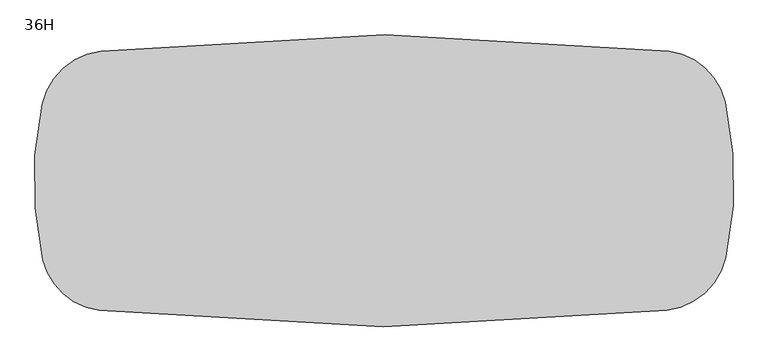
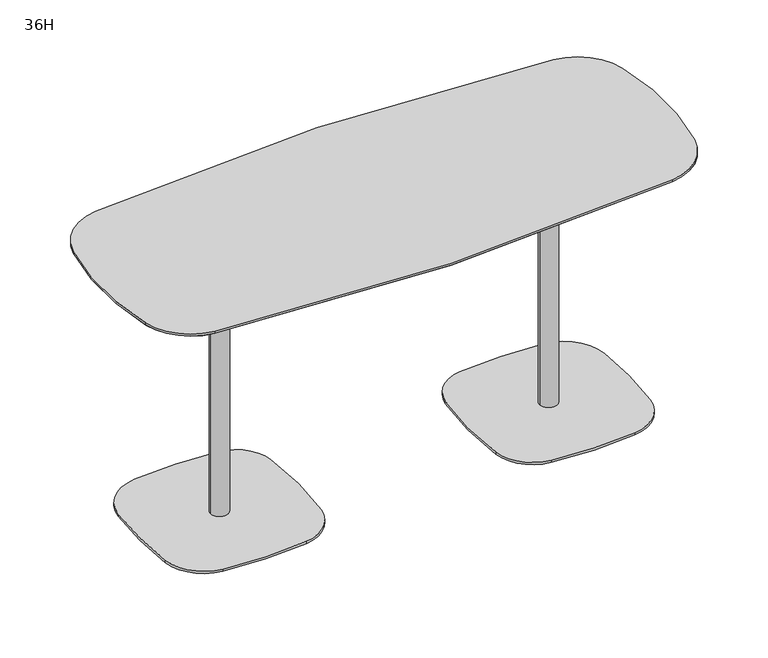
"""IFC4 building model written with IfcOpenShell, lengths in millimetres: furniture geometry, Steelcase Coalesse - Enea Lottus - Table - Rectangular : 36H."""

from ifc_helpers import new_model, si_unit, point, frame, frame_2d, origin, origin_with_axes, place, context, project, spatial, polyline, circle_curve, trimmed, segment, composite_curve, outline, extrude, source, transform, mapped, element, save
from ifc_brep_helpers import plane_surface, cylinder_surface, revolved_surface, advanced_brep


def furniture_36h_5759447a(model_context):
    return source(origin(), model_context, "Body", "SolidModel", [
        advanced_brep(
        [(533.6899315, 0.0079283, 878.1956207), (533.6899315, 29.1924887, 878.1956207), (533.6899315, -29.1766322, 878.1956207), (533.6899315, 176.2649386, 898.2538925), (533.6899315, -176.2490821, 898.2538925), (533.6899315, 176.2649386, 901.6282142), (533.6899315, -176.2490821, 901.6282142), (533.6899315, 0.0079283, 901.6282142)],
        [
            (0, 1),
            (1, 2, circle_curve(frame((533.6899315, 0.0079283, 878.1956207), z_axis=(0.0, 0.0, -1.0), x_axis=(0.0, 1.0, 0.0)), 29.1845605)),
            (2, 0),
            (2, 1, circle_curve(frame((533.6899315, 0.0079283, 878.1956207), z_axis=(0.0, 0.0, -1.0), x_axis=(0.0, 1.0, 0.0)), 29.1845605)),
            (1, 3),
            (3, 4, circle_curve(frame((533.6899315, 0.0079283, 898.2538925), z_axis=(0.0, 0.0, -1.0), x_axis=(0.0, 1.0, 0.0)), 176.2570104)),
            (4, 2),
            (4, 3, circle_curve(frame((533.6899315, 0.0079283, 898.2538925), z_axis=(0.0, 0.0, -1.0), x_axis=(0.0, 1.0, 0.0)), 176.2570104)),
            (3, 5),
            (5, 6, circle_curve(frame((533.6899315, 0.0079283, 901.6282142), z_axis=(0.0, 0.0, -1.0), x_axis=(0.0, 1.0, 0.0)), 176.2570104)),
            (6, 4),
            (6, 5, circle_curve(frame((533.6899315, 0.0079283, 901.6282142), z_axis=(0.0, 0.0, -1.0), x_axis=(0.0, 1.0, 0.0)), 176.2570104)),
            (5, 7),
            (7, 6),
        ],
        [
            plane_surface(frame((533.6899315, 0.0079283, 878.1956207), z_axis=(0.0, 0.0, -1.0), x_axis=(0.0, 1.0, 0.0))),
            revolved_surface(polyline([(533.6899315, 176.2649386, 898.2538925), (533.6899315, 29.1924887, 878.1956207)]), (533.6899315, 0.0079283, 897.6176504), (0.0, 0.0, -1.0)),
            cylinder_surface(frame((533.6899315, 0.0079283, 897.6176504), z_axis=(0.0, 0.0, -1.0), x_axis=(0.0, 1.0, 0.0)), 176.2570104),
            plane_surface(frame((533.6899315, 0.0079283, 901.6282142), z_axis=(0.0, 0.0, 1.0), x_axis=(0.0, 1.0, 0.0))),
        ],
        [
            (0, [[1, 2, 3]]),
            (0, [[-3, 4, -1]]),
            (1, [[-2, 5, 6, 7]]),
            (1, [[-4, -7, 8, -5]]),
            (2, [[-6, 9, 10, 11]]),
            (2, [[-8, -11, 12, -9]]),
            (3, [[-10, 13, 14]]),
            (3, [[-12, -14, -13]]),
        ],
    ),
        advanced_brep(
        [(-533.2930565, -29.5735072, 878.1956207), (-533.2930565, 28.7956137, 878.1956207), (-533.2930565, -0.3889467, 878.1956207), (-533.2930565, -176.6459571, 898.2538925), (-533.2930565, 175.8680636, 898.2538925), (-533.2930565, -176.6459571, 901.6282142), (-533.2930565, 175.8680636, 901.6282142), (-533.2930565, -0.3889467, 901.6282142)],
        [
            (0, 1, circle_curve(frame((-533.2930565, -0.3889467, 878.1956207), z_axis=(0.0, 0.0, -1.0), x_axis=(0.0, 1.0, 0.0)), 29.1845605)),
            (1, 2),
            (2, 0),
            (1, 0, circle_curve(frame((-533.2930565, -0.3889467, 878.1956207), z_axis=(0.0, 0.0, -1.0), x_axis=(0.0, 1.0, 0.0)), 29.1845605)),
            (3, 4, circle_curve(frame((-533.2930565, -0.3889467, 898.2538925), z_axis=(0.0, 0.0, -1.0), x_axis=(0.0, 1.0, 0.0)), 176.2570104)),
            (4, 1),
            (0, 3),
            (4, 3, circle_curve(frame((-533.2930565, -0.3889467, 898.2538925), z_axis=(0.0, 0.0, -1.0), x_axis=(0.0, 1.0, 0.0)), 176.2570104)),
            (5, 6, circle_curve(frame((-533.2930565, -0.3889467, 901.6282142), z_axis=(0.0, 0.0, -1.0), x_axis=(0.0, 1.0, 0.0)), 176.2570104)),
            (6, 4),
            (3, 5),
            (6, 5, circle_curve(frame((-533.2930565, -0.3889467, 901.6282142), z_axis=(0.0, 0.0, -1.0), x_axis=(0.0, 1.0, 0.0)), 176.2570104)),
            (7, 6),
            (5, 7),
        ],
        [
            plane_surface(frame((-533.2930565, -0.3889467, 878.1956207), z_axis=(0.0, 0.0, -1.0), x_axis=(0.0, 1.0, 0.0))),
            revolved_surface(polyline([(-533.2930565, 28.7956137, 878.1956207), (-533.2930565, 175.8680636, 898.2538925)]), (-533.2930565, -0.3889467, 897.6176504), (0.0, 0.0, 1.0)),
            cylinder_surface(frame((-533.2930565, -0.3889467, 897.6176504), z_axis=(0.0, 0.0, 1.0), x_axis=(0.0, 1.0, 0.0)), 176.2570104),
            plane_surface(frame((-533.2930565, -0.3889467, 901.6282142), z_axis=(0.0, 0.0, 1.0), x_axis=(0.0, 1.0, 0.0))),
        ],
        [
            (0, [[1, 2, 3]]),
            (0, [[4, -3, -2]]),
            (1, [[5, 6, -1, 7]]),
            (1, [[8, -7, -4, -6]]),
            (2, [[9, 10, -5, 11]]),
            (2, [[12, -11, -8, -10]]),
            (3, [[13, -9, 14]]),
            (3, [[-14, -12, -13]]),
        ],
    ),
        extrude(outline(composite_curve([segment(trimmed(circle_curve(frame_2d((714.0146629, 180.1091408)), 14.530327), [point((699.4843358, 180.1091408))], [point((728.5449899, 180.1091408))], False, "CARTESIAN"), True, "CONTINUOUS"), segment(trimmed(circle_curve(frame_2d((714.0146629, 180.1091408)), 14.530327), [point((728.5449899, 180.1091408))], [point((699.4843358, 180.1091408))], False, "CARTESIAN"), True, "CONTINUOUS")], self_intersect=False)), origin_with_axes(), (0.0, 0.0, 1.0), 12.0681503),
        extrude(outline(composite_curve([segment(trimmed(circle_curve(frame_2d((353.3678597, 180.1091408)), 14.530327), [point((338.8375326, 180.1091408))], [point((367.8981867, 180.1091408))], False, "CARTESIAN"), True, "CONTINUOUS"), segment(trimmed(circle_curve(frame_2d((353.3678597, 180.1091408)), 14.530327), [point((367.8981867, 180.1091408))], [point((338.8375326, 180.1091408))], False, "CARTESIAN"), True, "CONTINUOUS")], self_intersect=False)), origin_with_axes(), (0.0, 0.0, 1.0), 12.0681503),
        extrude(outline(composite_curve([segment(trimmed(circle_curve(frame_2d((714.0146629, -180.1091408)), 14.530327), [point((699.4843358, -180.1091408))], [point((728.5449899, -180.1091408))], False, "CARTESIAN"), True, "CONTINUOUS"), segment(trimmed(circle_curve(frame_2d((714.0146629, -180.1091408)), 14.530327), [point((728.5449899, -180.1091408))], [point((699.4843358, -180.1091408))], False, "CARTESIAN"), True, "CONTINUOUS")], self_intersect=False)), origin_with_axes(), (0.0, 0.0, 1.0), 12.0681503),
        extrude(outline(composite_curve([segment(trimmed(circle_curve(frame_2d((353.3678597, -180.1091408)), 14.530327), [point((338.8375326, -180.1091408))], [point((367.8981867, -180.1091408))], False, "CARTESIAN"), True, "CONTINUOUS"), segment(trimmed(circle_curve(frame_2d((353.3678597, -180.1091408)), 14.530327), [point((367.8981867, -180.1091408))], [point((338.8375326, -180.1091408))], False, "CARTESIAN"), True, "CONTINUOUS")], self_intersect=False)), origin_with_axes(), (0.0, 0.0, 1.0), 12.0681503),
        extrude(outline(composite_curve([segment(trimmed(circle_curve(frame_2d((653.6418748, -119.1450965)), 133.222342), [point((786.0221834, -134.099905))], [point((668.3067607, -251.5578358))], False, "CARTESIAN"), True, "CONTINUOUS"), segment(trimmed(circle_curve(frame_2d((533.6074129, 964.6745761)), 1223.6687436), [point((668.3067607, -251.5578358))], [point((397.528708, -251.4042783))], False, "CARTESIAN"), True, "CONTINUOUS"), segment(trimmed(circle_curve(frame_2d((411.982862, -122.2335093)), 129.97696), [point((397.528708, -251.4042783))], [point((282.9704132, -138.0385142))], False, "CARTESIAN"), True, "CONTINUOUS"), segment(trimmed(circle_curve(frame_2d((1412.2891802, 0.3116127)), 1137.7616777), [point((282.9704132, -138.0385142))], [point((283.9914799, 146.7559187))], False, "CARTESIAN"), True, "CONTINUOUS"), segment(trimmed(circle_curve(frame_2d((404.4486749, 131.1215074)), 121.4675703), [point((283.9914799, 146.7559187))], [point((391.3529548, 251.8810733))], False, "CARTESIAN"), True, "CONTINUOUS"), segment(trimmed(circle_curve(frame_2d((531.1125259, -1036.8838838)), 1296.3208909), [point((391.3529548, 251.8810733))], [point((663.5285015, 252.6562907))], False, "CARTESIAN"), True, "CONTINUOUS"), segment(trimmed(circle_curve(frame_2d((649.3276784, 114.3608031)), 139.022679), [point((663.5285015, 252.6562907))], [point((787.6552382, 128.2457396))], False, "CARTESIAN"), True, "CONTINUOUS"), segment(trimmed(circle_curve(frame_2d((-442.8831067, 4.7277163)), 1236.7220061), [point((787.6552382, 128.2457396))], [point((786.0221834, -134.099905))], False, "CARTESIAN"), True, "CONTINUOUS")], self_intersect=False)), frame((0.0, 0.0, 12.0681503), z_axis=(0.0, 0.0, 1.0), x_axis=(1.0, 0.0, 0.0)), (0.0, 0.0, 1.0), 7.874),
        extrude(outline(composite_curve([segment(trimmed(circle_curve(frame_2d((533.6909706, 0.2349542)), 29.1845605), [point((504.5064102, 0.2349542))], [point((562.8755311, 0.2349542))], False, "CARTESIAN"), True, "CONTINUOUS"), segment(trimmed(circle_curve(frame_2d((533.6909706, 0.2349542)), 29.1845605), [point((562.8755311, 0.2349542))], [point((504.5064102, 0.2349542))], False, "CARTESIAN"), True, "CONTINUOUS")], self_intersect=False)), frame((0.0, 0.0, 19.9421503), z_axis=(0.0, 0.0, 1.0), x_axis=(1.0, 0.0, 0.0)), (0.0, 0.0, 1.0), 858.2534704),
        advanced_brep(
        [(739.347506, -338.2744697, 906.847009), (892.4732941, -200.1677811, 906.847009), (891.2541739, 205.5853505, 906.847009), (743.9458752, 337.7402913, 906.847009), (-739.2545007, 338.4789717, 906.847009), (-892.4186272, 200.414007, 906.847009), (-891.1980236, -205.8312645, 906.847009), (-743.8530353, -337.9460632, 906.847009), (737.8865789, -325.6587774, 901.6282142), (-742.3865217, -325.3310191, 901.6282142), (-878.8170663, -203.0025018, 901.6282142), (-880.020895, 197.6596943, 901.6282142), (-737.7970634, 325.8628758, 901.6282142), (742.4758721, 325.1256533, 901.6282142), (878.872445, 202.7599674, 901.6282142), (880.0748107, -197.4168523, 901.6282142)],
        [
            (0, 1, circle_curve(frame((718.8945265, -161.6547777, 906.847009), z_axis=(0.0, 0.0, 1.0), x_axis=(0.11503363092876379, -0.9933615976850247, 0.0)), 177.8)),
            (1, 2, circle_curve(frame((-9.6863319, 0.0, 906.847009), z_axis=(0.0, 0.0, 1.0), x_axis=(0.9762585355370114, -0.21660856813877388, 0.0)), 924.0990917)),
            (2, 3, circle_curve(frame((724.1008339, 167.4426787, 906.847009), z_axis=(0.0, 0.0, 1.0), x_axis=(0.9749392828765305, 0.2224711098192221, 0.0)), 171.45)),
            (3, 4, circle_curve(frame((-0.8375458, -6053.5206925, 906.847009), z_axis=(0.0, 0.0, 1.0), x_axis=(0.11574827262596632, 0.9932785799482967, 0.0)), 6434.5100285)),
            (4, 5, circle_curve(frame((-718.8503777, 161.8536288, 906.847009), z_axis=(0.0, 0.0, 1.0), x_axis=(-0.11475884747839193, 0.9933933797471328, 0.0)), 177.8)),
            (5, 6, circle_curve(frame((9.6863319, 0.0, 906.847009), z_axis=(0.0, 0.0, 1.0), x_axis=(-0.9761993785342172, 0.21687501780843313, 0.0)), 924.0990917)),
            (6, 7, circle_curve(frame((-724.0551012, -167.6429678, 906.847009), z_axis=(0.0, 0.0, 1.0), x_axis=(-0.9748785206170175, -0.22273722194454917, 0.0)), 171.45)),
            (7, 0, circle_curve(frame((-0.8375458, 6053.5206925, 906.847009), z_axis=(0.0, 0.0, 1.0), x_axis=(-0.11547351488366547, -0.9933105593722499, 0.0)), 6434.5100285)),
            (8, 9, circle_curve(frame((-0.8375458, 6053.5206925, 901.6282142), z_axis=(0.0, 0.0, -1.0), x_axis=(-0.11547351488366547, -0.9933105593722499, 0.0)), 6421.8100285)),
            (9, 10, circle_curve(frame((-724.0551012, -167.6429678, 901.6282142), z_axis=(0.0, 0.0, -1.0), x_axis=(-0.9748785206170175, -0.22273722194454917, 0.0)), 158.75)),
            (10, 11, circle_curve(frame((9.6863319, 0.0, 901.6282142), z_axis=(0.0, 0.0, -1.0), x_axis=(-0.9761993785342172, 0.21687501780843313, 0.0)), 911.3990917)),
            (11, 12, circle_curve(frame((-718.8503777, 161.8536288, 901.6282142), z_axis=(0.0, 0.0, -1.0), x_axis=(-0.11475884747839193, 0.9933933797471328, 0.0)), 165.1)),
            (12, 13, circle_curve(frame((-0.8375458, -6053.5206925, 901.6282142), z_axis=(0.0, 0.0, -1.0), x_axis=(0.11574827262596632, 0.9932785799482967, 0.0)), 6421.8100285)),
            (13, 14, circle_curve(frame((724.1008339, 167.4426787, 901.6282142), z_axis=(0.0, 0.0, -1.0), x_axis=(0.9749392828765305, 0.2224711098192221, 0.0)), 158.75)),
            (14, 15, circle_curve(frame((-9.6863319, 0.0, 901.6282142), z_axis=(0.0, 0.0, -1.0), x_axis=(0.9762585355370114, -0.21660856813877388, 0.0)), 911.3990917)),
            (15, 8, circle_curve(frame((718.8945265, -161.6547777, 901.6282142), z_axis=(0.0, 0.0, -1.0), x_axis=(0.11503363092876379, -0.9933615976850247, 0.0)), 165.1)),
            (15, 1),
            (0, 8),
            (14, 2),
            (13, 3),
            (12, 4),
            (11, 5),
            (10, 6),
            (9, 7),
        ],
        [
            plane_surface(frame((0.0370828, -0.0001197, 906.847009), z_axis=(0.0, 0.0, 1.0), x_axis=(-0.9932785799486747, 0.11574827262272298, 0.0))),
            plane_surface(frame((0.03602, -0.00012, 901.6282142), z_axis=(0.0, 0.0, -1.0), x_axis=(-0.9932785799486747, 0.11574827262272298, 0.0))),
            revolved_surface(polyline([(880.0748107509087, -197.41685229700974, 901.6282142), (892.4732941, -200.1677811, 906.847009)]), (718.8945265, -161.6547777, 833.7838815), (0.0, 0.0, 1.0)),
            revolved_surface(polyline([(878.8724450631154, 202.75996741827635, 901.6282142), (891.2541739, 205.5853505, 906.847009)]), (-9.6863319, 0.0, 527.1081463), (0.0, 0.0, 1.0)),
            revolved_surface(polyline([(742.4758721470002, 325.12565338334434, 901.6282142), (743.9458752, 337.7402913, 906.847009)]), (724.1008339, 167.4426787, 836.3932789), (0.0, 0.0, 1.0)),
            revolved_surface(polyline([(-737.7970633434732, 325.8628758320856, 901.6282142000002), (-739.2545007, 338.47897170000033, 906.8470089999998)]), (-0.8375458, -6053.5206925, -1737.2780007), (0.0, 0.0, 1.0)),
            revolved_surface(polyline([(-880.0208951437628, 197.65969428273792, 901.6282142), (-892.4186272, 200.414007, 906.847009)]), (-718.8503777, 161.8536288, 833.7838815), (0.0, 0.0, 1.0)),
            revolved_surface(polyline([(-878.8170664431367, -203.00250179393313, 901.6282142), (-891.1980236, -205.8312645, 906.847009)]), (9.6863319, 0.0, 527.1081463), (0.0, 0.0, 1.0)),
            revolved_surface(polyline([(-742.3865216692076, -325.3310191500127, 901.6282142), (-743.8530353, -337.9460632, 906.847009)]), (-724.0551012, -167.6429678, 836.3932789), (0.0, 0.0, 1.0)),
            revolved_surface(polyline([(737.8865788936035, -325.6587774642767, 901.6282142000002), (739.347506, -338.2744696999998, 906.8470089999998)]), (-0.8375458, 6053.5206925, -1737.2780007), (0.0, 0.0, 1.0)),
        ],
        [
            (0, [[1, 2, 3, 4, 5, 6, 7, 8]]),
            (1, [[9, 10, 11, 12, 13, 14, 15, 16]]),
            (2, [[-16, 17, -1, 18]]),
            (3, [[-15, 19, -2, -17]]),
            (4, [[-14, 20, -3, -19]]),
            (5, [[-13, 21, -4, -20]]),
            (6, [[-12, 22, -5, -21]]),
            (7, [[-11, 23, -6, -22]]),
            (8, [[-10, 24, -7, -23]]),
            (9, [[-9, -18, -8, -24]]),
        ],
    ),
        extrude(outline(composite_curve([segment(trimmed(circle_curve(frame_2d((9.6863319, 0.0)), 924.0990917), [point((-891.1980236, -205.8312645))], [point((-892.4186272, 200.414007))], False, "CARTESIAN"), True, "CONTINUOUS"), segment(trimmed(circle_curve(frame_2d((-718.8503777, 161.8536288)), 177.8), [point((-892.4186272, 200.414007))], [point((-739.2545007, 338.4789717))], False, "CARTESIAN"), True, "CONTINUOUS"), segment(trimmed(circle_curve(frame_2d((-0.8375458, -6053.5206925)), 6434.5100285), [point((-739.2545007, 338.4789717))], [point((743.9458752, 337.7402913))], False, "CARTESIAN"), True, "CONTINUOUS"), segment(trimmed(circle_curve(frame_2d((724.1008339, 167.4426787)), 171.45), [point((743.9458752, 337.7402913))], [point((891.2541739, 205.5853505))], False, "CARTESIAN"), True, "CONTINUOUS"), segment(trimmed(circle_curve(frame_2d((-9.6863319, 0.0)), 924.0990917), [point((891.2541739, 205.5853505))], [point((892.4732941, -200.1677811))], False, "CARTESIAN"), True, "CONTINUOUS"), segment(trimmed(circle_curve(frame_2d((718.8945265, -161.6547777)), 177.8), [point((892.4732941, -200.1677811))], [point((739.347506, -338.2744697))], False, "CARTESIAN"), True, "CONTINUOUS"), segment(trimmed(circle_curve(frame_2d((-0.8375458, 6053.5206925)), 6434.5100285), [point((739.347506, -338.2744697))], [point((-743.8530353, -337.9460632))], False, "CARTESIAN"), True, "CONTINUOUS"), segment(trimmed(circle_curve(frame_2d((-724.0551012, -167.6429678)), 171.45), [point((-743.8530353, -337.9460632))], [point((-891.1980236, -205.8312645))], False, "CARTESIAN"), True, "CONTINUOUS")], self_intersect=False)), frame((0.0, 0.0, 906.847009), z_axis=(0.0, 0.0, 1.0), x_axis=(1.0, 0.0, 0.0)), (0.0, 0.0, 1.0), 7.552991),
        extrude(outline(composite_curve([segment(trimmed(circle_curve(frame_2d((-714.0146629, 180.1091408)), 14.530327), [point((-699.4843358, 180.1091408))], [point((-728.5449899, 180.1091408))], False, "CARTESIAN"), True, "CONTINUOUS"), segment(trimmed(circle_curve(frame_2d((-714.0146629, 180.1091408)), 14.530327), [point((-728.5449899, 180.1091408))], [point((-699.4843358, 180.1091408))], False, "CARTESIAN"), True, "CONTINUOUS")], self_intersect=False)), origin_with_axes(), (0.0, 0.0, 1.0), 12.0681503),
        extrude(outline(composite_curve([segment(trimmed(circle_curve(frame_2d((-353.3678597, 180.1091408)), 14.530327), [point((-338.8375326, 180.1091408))], [point((-367.8981867, 180.1091408))], False, "CARTESIAN"), True, "CONTINUOUS"), segment(trimmed(circle_curve(frame_2d((-353.3678597, 180.1091408)), 14.530327), [point((-367.8981867, 180.1091408))], [point((-338.8375326, 180.1091408))], False, "CARTESIAN"), True, "CONTINUOUS")], self_intersect=False)), origin_with_axes(), (0.0, 0.0, 1.0), 12.0681503),
        extrude(outline(composite_curve([segment(trimmed(circle_curve(frame_2d((-714.0146629, -180.1091408)), 14.530327), [point((-699.4843358, -180.1091408))], [point((-728.5449899, -180.1091408))], False, "CARTESIAN"), True, "CONTINUOUS"), segment(trimmed(circle_curve(frame_2d((-714.0146629, -180.1091408)), 14.530327), [point((-728.5449899, -180.1091408))], [point((-699.4843358, -180.1091408))], False, "CARTESIAN"), True, "CONTINUOUS")], self_intersect=False)), origin_with_axes(), (0.0, 0.0, 1.0), 12.0681503),
        extrude(outline(composite_curve([segment(trimmed(circle_curve(frame_2d((-353.3678597, -180.1091408)), 14.530327), [point((-338.8375326, -180.1091408))], [point((-367.8981867, -180.1091408))], False, "CARTESIAN"), True, "CONTINUOUS"), segment(trimmed(circle_curve(frame_2d((-353.3678597, -180.1091408)), 14.530327), [point((-367.8981867, -180.1091408))], [point((-338.8375326, -180.1091408))], False, "CARTESIAN"), True, "CONTINUOUS")], self_intersect=False)), origin_with_axes(), (0.0, 0.0, 1.0), 12.0681503),
        extrude(outline(composite_curve([segment(trimmed(circle_curve(frame_2d((442.8831067, 4.7277163)), 1236.7220061), [point((-786.0221834, -134.099905))], [point((-787.6552382, 128.2457396))], False, "CARTESIAN"), True, "CONTINUOUS"), segment(trimmed(circle_curve(frame_2d((-649.3276784, 114.3608031)), 139.022679), [point((-787.6552382, 128.2457396))], [point((-663.5285015, 252.6562907))], False, "CARTESIAN"), True, "CONTINUOUS"), segment(trimmed(circle_curve(frame_2d((-531.1125259, -1036.8838838)), 1296.3208909), [point((-663.5285015, 252.6562907))], [point((-391.3529548, 251.8810733))], False, "CARTESIAN"), True, "CONTINUOUS"), segment(trimmed(circle_curve(frame_2d((-404.4486749, 131.1215074)), 121.4675703), [point((-391.3529548, 251.8810733))], [point((-283.9914799, 146.7559187))], False, "CARTESIAN"), True, "CONTINUOUS"), segment(trimmed(circle_curve(frame_2d((-1412.2891802, 0.3116127)), 1137.7616777), [point((-283.9914799, 146.7559187))], [point((-282.9704132, -138.0385142))], False, "CARTESIAN"), True, "CONTINUOUS"), segment(trimmed(circle_curve(frame_2d((-411.982862, -122.2335093)), 129.97696), [point((-282.9704132, -138.0385142))], [point((-397.528708, -251.4042783))], False, "CARTESIAN"), True, "CONTINUOUS"), segment(trimmed(circle_curve(frame_2d((-533.6074129, 964.6745761)), 1223.6687436), [point((-397.528708, -251.4042783))], [point((-668.3067607, -251.5578358))], False, "CARTESIAN"), True, "CONTINUOUS"), segment(trimmed(circle_curve(frame_2d((-653.6418748, -119.1450965)), 133.222342), [point((-668.3067607, -251.5578358))], [point((-786.0221834, -134.099905))], False, "CARTESIAN"), True, "CONTINUOUS")], self_intersect=False)), frame((0.0, 0.0, 12.0681503), z_axis=(0.0, 0.0, 1.0), x_axis=(1.0, 0.0, 0.0)), (0.0, 0.0, 1.0), 7.874),
        extrude(outline(composite_curve([segment(trimmed(circle_curve(frame_2d((-533.6909706, 0.2349542)), 29.1845605), [point((-504.5064102, 0.2349542))], [point((-562.8755311, 0.2349542))], False, "CARTESIAN"), True, "CONTINUOUS"), segment(trimmed(circle_curve(frame_2d((-533.6909706, 0.2349542)), 29.1845605), [point((-562.8755311, 0.2349542))], [point((-504.5064102, 0.2349542))], False, "CARTESIAN"), True, "CONTINUOUS")], self_intersect=False)), frame((0.0, 0.0, 19.9421503), z_axis=(0.0, 0.0, 1.0), x_axis=(1.0, 0.0, 0.0)), (0.0, 0.0, 1.0), 858.2534704),
    ])


if __name__ == "__main__":
    model = new_model("IFC4")
    model_context = context("Model", 3, world=origin())
    ifc_project = project(units=[si_unit("LENGTHUNIT", "METRE", prefix="MILLI")], contexts=[model_context])
    site = spatial("IfcSite", under=ifc_project)
    building = spatial("IfcBuilding", under=site)
    placement = place(None, origin())
    furniture_36h_shape = furniture_36h_5759447a(model_context)
    element("IfcFurniture", 1, ObjectType="Steelcase Coalesse - Enea Lottus - Table - Rectangular : 36H", at=placement, inside=building, context=model_context, shape_type="MappedRepresentation", body=[
        mapped(furniture_36h_shape, transform((0.0, 0.0, 0.0), x_axis=(1.0, 0.0, 0.0), y_axis=(0.0, 1.0, 0.0), z_axis=(0.0, 0.0, 1.0))),
    ])
    save(model, "model.ifc")
